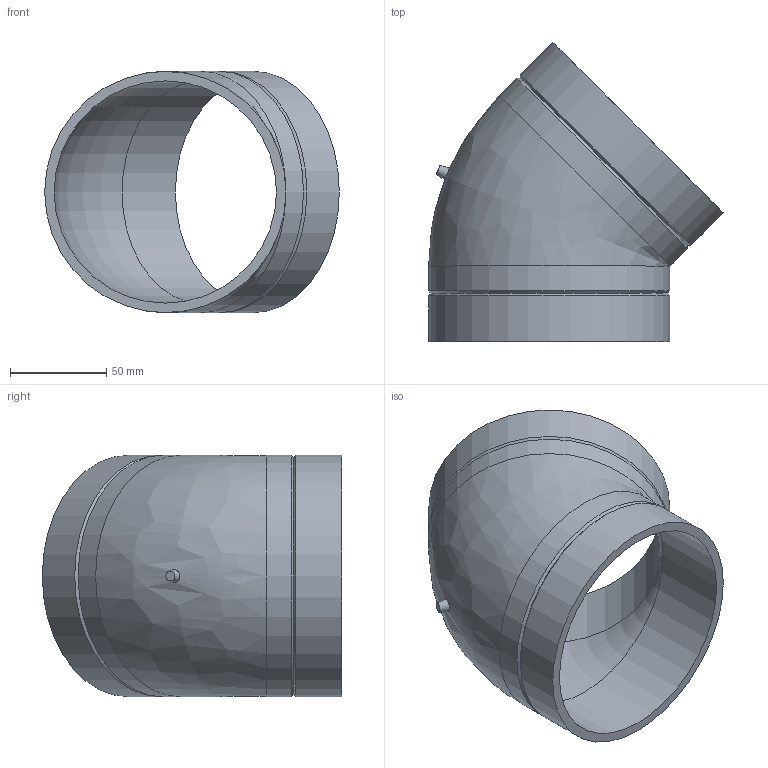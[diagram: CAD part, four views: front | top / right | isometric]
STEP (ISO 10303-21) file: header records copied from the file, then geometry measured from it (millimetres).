
FILE_DESCRIPTION(/* description */ (''),/* implementation_level */ '2;1');
FILE_NAME(/* name */ 'Z:\Geberit\Export\NewStep\PE Bogen Einzelteil_Ipart\stp\368045.stp',/* time_stamp */ '2014-04-02T11:57:14+02:00',/* author */ ('bruh'),/* organization */ (''),/* preprocessor_version */ 'ST-DEVELOPER v15.2',/* originating_system */ 'Autodesk Inventor 2014',/* authorisation */ '');
FILE_SCHEMA (('AUTOMOTIVE_DESIGN { 1 0 10303 214 3 1 1 }'));
Length unit declared in the file: millimetre
Products named in the file (1): 368045
Bounding box: 152.66 x 155.16 x 125 mm (x, y, z)
Volume: 235335 mm3; surface area: 100681.5 mm2
Topology: 1 solids, 1 shells, 16 faces, 32 edges, 17 vertices
Faces by surface type: cylinder 6, cone 5, plane 3, torus 1, bspline 1
Full cylindrical faces by diameter (mm): 115.2 x2, 125 x4
Entity records: 475 total; most frequent: CARTESIAN_POINT 169, DIRECTION 62, ORIENTED_EDGE 32, EDGE_LOOP 31, AXIS2_PLACEMENT_3D 31, FACE_BOUND 18, STYLED_ITEM 17, EDGE_CURVE 16
